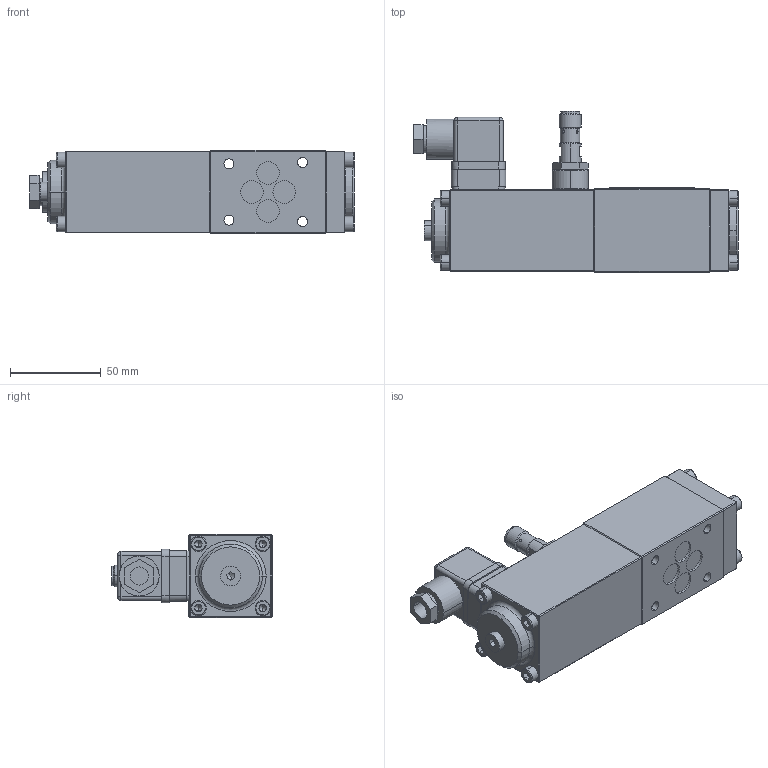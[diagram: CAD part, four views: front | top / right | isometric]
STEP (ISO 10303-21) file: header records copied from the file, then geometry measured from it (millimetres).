
FILE_DESCRIPTION (( 'STEP AP214' ), '1' );
FILE_NAME ('A.32061a-P1a.STEP', '2022-09-23T09:38:17', ( '' ), ( '' ), 'SwSTEP 2.0', 'SolidWorks 2020', '' );
FILE_SCHEMA (( 'AUTOMOTIVE_DESIGN' ));
Length unit declared in the file: millimetre
Products named in the file (1): A.32061a-P1a
Bounding box: 178.25 x 88.5 x 46 mm (x, y, z)
Volume: 370173.3 mm3; surface area: 47484.7 mm2
Topology: 1 solids, 2 shells, 495 faces, 1153 edges, 694 vertices
Faces by surface type: plane 295, cylinder 102, cone 52, bspline 24, torus 22
Entity records: 19796 total; most frequent: CARTESIAN_POINT 3395, DIRECTION 2372, ORIENTED_EDGE 2262, EDGE_CURVE 1131, AXIS2_PLACEMENT_3D 835, LINE 702, VECTOR 702, VERTEX_POINT 694
